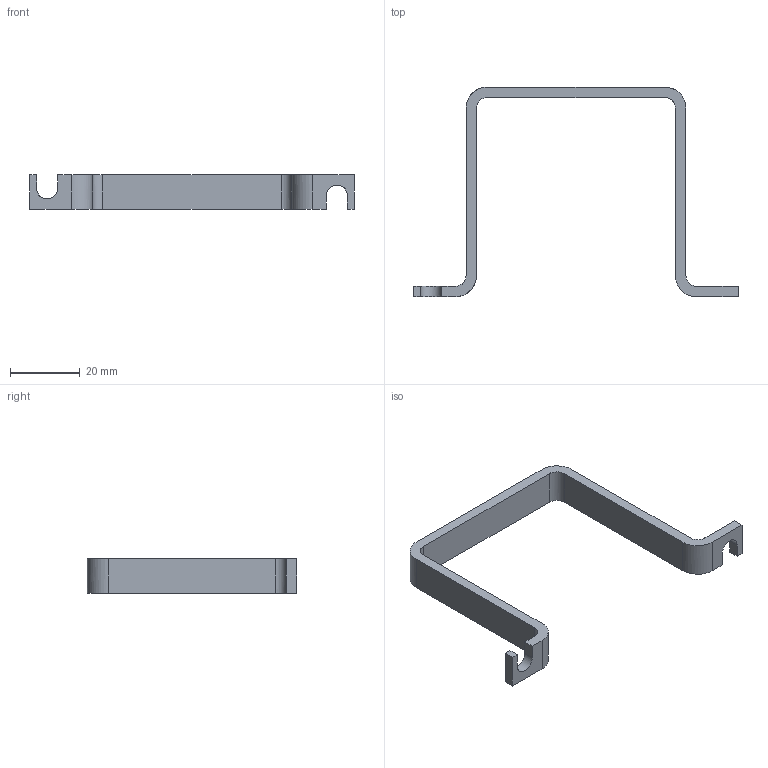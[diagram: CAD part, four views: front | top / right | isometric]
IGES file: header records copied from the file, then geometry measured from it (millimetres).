
Global section: file name: 091283_ZB8511; native system: Autodesk Inventor 2016; preprocessor: unknown; author: Kuester; date: 20170303.065550; units: millimetre
Bounding box: 93 x 60 x 10 mm (x, y, z)
Volume: 5749.4 mm3; surface area: 5157.2 mm2
Topology: 1 solids, 1 shells, 30 faces, 84 edges, 56 vertices
Faces by surface type: bspline 30
